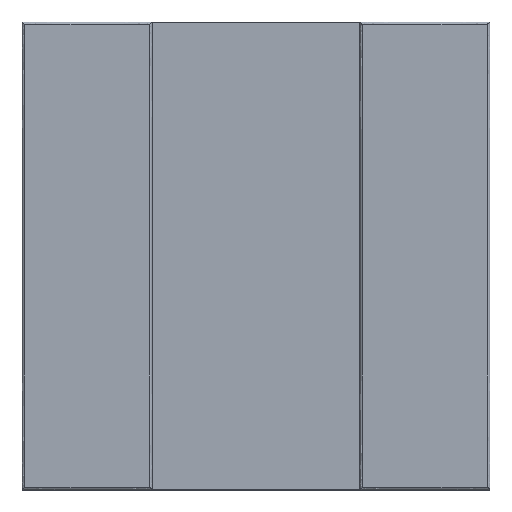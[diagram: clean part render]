
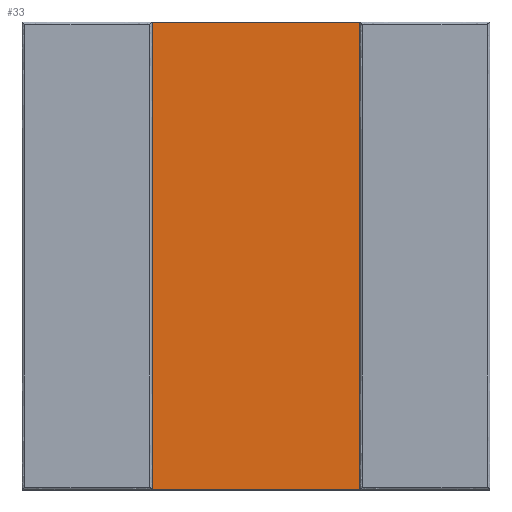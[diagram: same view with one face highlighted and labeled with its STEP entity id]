
A CAD part, top view. The second image highlights one B-rep face of the part: STEP entity #33.
In plain terms, the highlighted planar face has unit normal (0, 0, 1).
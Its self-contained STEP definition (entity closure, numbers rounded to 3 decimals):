
#33=ADVANCED_FACE('',(#59),#351,.T.);
#59=FACE_OUTER_BOUND('',#85,.T.);
#85=EDGE_LOOP('',(#123,#124,#125,#126));
#123=ORIENTED_EDGE('',*,*,#217,.F.);
#124=ORIENTED_EDGE('',*,*,#220,.F.);
#125=ORIENTED_EDGE('',*,*,#221,.F.);
#126=ORIENTED_EDGE('',*,*,#212,.F.);
#212=EDGE_CURVE('',#316,#317,#264,.T.);
#217=EDGE_CURVE('',#320,#316,#269,.T.);
#220=EDGE_CURVE('',#322,#320,#272,.T.);
#221=EDGE_CURVE('',#317,#322,#273,.T.);
#264=B_SPLINE_CURVE_WITH_KNOTS('',1,(#443,#444),.UNSPECIFIED.,.F.,.F.,(2,
2),(0.,1.),.UNSPECIFIED.);
#269=B_SPLINE_CURVE_WITH_KNOTS('',1,(#453,#454),.UNSPECIFIED.,.F.,.F.,(2,
2),(-1.,0.),.UNSPECIFIED.);
#272=B_SPLINE_CURVE_WITH_KNOTS('',1,(#459,#460),.UNSPECIFIED.,.F.,.F.,(2,
2),(-1.,0.),.UNSPECIFIED.);
#273=B_SPLINE_CURVE_WITH_KNOTS('',1,(#461,#462),.UNSPECIFIED.,.F.,.F.,(2,
2),(0.,1.),.UNSPECIFIED.);
#316=VERTEX_POINT('',#434);
#317=VERTEX_POINT('',#435);
#320=VERTEX_POINT('',#438);
#322=VERTEX_POINT('',#440);
#351=PLANE('',#389);
#389=AXIS2_PLACEMENT_3D('',#431,#410,$);
#410=DIRECTION('',(0.,0.,1.));
#431=CARTESIAN_POINT('',(-450.,-450.,50.));
#434=CARTESIAN_POINT('',(-450.,-450.,50.));
#435=CARTESIAN_POINT('',(-450.,450.,50.));
#438=CARTESIAN_POINT('',(450.,-450.,50.));
#440=CARTESIAN_POINT('',(450.,450.,50.));
#443=CARTESIAN_POINT('',(-450.,-450.,50.));
#444=CARTESIAN_POINT('',(-450.,450.,50.));
#453=CARTESIAN_POINT('',(450.,-450.,50.));
#454=CARTESIAN_POINT('',(-450.,-450.,50.));
#459=CARTESIAN_POINT('',(450.,450.,50.));
#460=CARTESIAN_POINT('',(450.,-450.,50.));
#461=CARTESIAN_POINT('',(-450.,450.,50.));
#462=CARTESIAN_POINT('',(450.,450.,50.));
